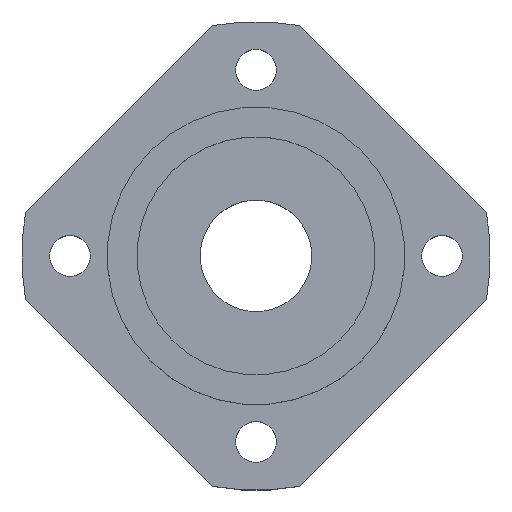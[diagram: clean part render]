
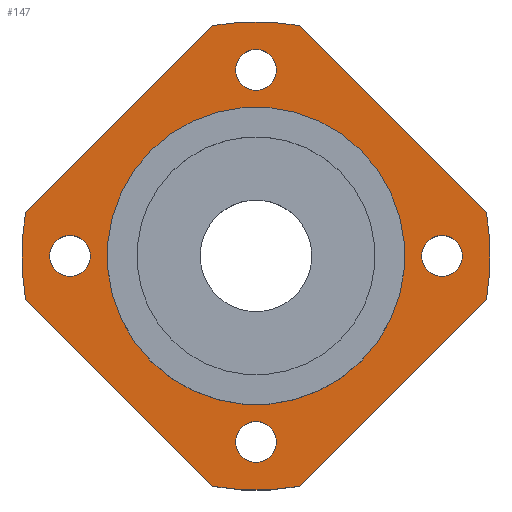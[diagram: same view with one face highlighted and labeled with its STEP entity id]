
A CAD part, top view. The second image highlights one B-rep face of the part: STEP entity #147.
In plain terms, the highlighted planar face has unit normal (0, 0, 1).
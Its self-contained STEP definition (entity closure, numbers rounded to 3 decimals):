
#83=LINE('',#720,#99);
#88=LINE('',#734,#104);
#92=LINE('',#746,#108);
#96=LINE('',#758,#112);
#99=VECTOR('',#577,1.);
#104=VECTOR('',#590,1.);
#108=VECTOR('',#602,1.);
#112=VECTOR('',#614,1.);
#123=PLANE('',#545);
#147=ADVANCED_FACE('',(#201,#202,#203,#204,#205,#206),#123,.T.);
#201=FACE_BOUND('',#259,.T.);
#202=FACE_BOUND('',#260,.T.);
#203=FACE_BOUND('',#261,.T.);
#204=FACE_BOUND('',#262,.T.);
#205=FACE_BOUND('',#263,.T.);
#206=FACE_BOUND('',#264,.T.);
#259=EDGE_LOOP('',(#348,#349,#350,#351,#352,#353,#354,#355));
#260=EDGE_LOOP('',(#356));
#261=EDGE_LOOP('',(#357));
#262=EDGE_LOOP('',(#358));
#263=EDGE_LOOP('',(#359));
#264=EDGE_LOOP('',(#360));
#348=ORIENTED_EDGE('',*,*,#421,.T.);
#349=ORIENTED_EDGE('',*,*,#425,.T.);
#350=ORIENTED_EDGE('',*,*,#428,.T.);
#351=ORIENTED_EDGE('',*,*,#430,.T.);
#352=ORIENTED_EDGE('',*,*,#434,.T.);
#353=ORIENTED_EDGE('',*,*,#437,.T.);
#354=ORIENTED_EDGE('',*,*,#440,.T.);
#355=ORIENTED_EDGE('',*,*,#441,.T.);
#356=ORIENTED_EDGE('',*,*,#415,.F.);
#357=ORIENTED_EDGE('',*,*,#452,.F.);
#358=ORIENTED_EDGE('',*,*,#456,.F.);
#359=ORIENTED_EDGE('',*,*,#457,.F.);
#360=ORIENTED_EDGE('',*,*,#458,.F.);
#375=VERTEX_POINT('',#705);
#381=VERTEX_POINT('',#719);
#382=VERTEX_POINT('',#721);
#384=VERTEX_POINT('',#727);
#386=VERTEX_POINT('',#733);
#388=VERTEX_POINT('',#738);
#390=VERTEX_POINT('',#745);
#392=VERTEX_POINT('',#751);
#394=VERTEX_POINT('',#757);
#404=VERTEX_POINT('',#788);
#408=VERTEX_POINT('',#800);
#409=VERTEX_POINT('',#802);
#410=VERTEX_POINT('',#804);
#415=EDGE_CURVE('GENERATED CIRCLE',#375,#375,#463,.T.);
#421=EDGE_CURVE('LINE',#382,#381,#83,.T.);
#425=EDGE_CURVE('GENERATED CIRCLE',#381,#384,#468,.T.);
#428=EDGE_CURVE('LINE',#384,#386,#88,.T.);
#430=EDGE_CURVE('GENERATED CIRCLE',#386,#388,#469,.T.);
#434=EDGE_CURVE('LINE',#388,#390,#92,.T.);
#437=EDGE_CURVE('GENERATED CIRCLE',#390,#392,#472,.T.);
#440=EDGE_CURVE('LINE',#392,#394,#96,.T.);
#441=EDGE_CURVE('GENERATED CIRCLE',#394,#382,#473,.T.);
#452=EDGE_CURVE('GENERATED CIRCLE',#404,#404,#484,.T.);
#456=EDGE_CURVE('GENERATED CIRCLE',#408,#408,#488,.T.);
#457=EDGE_CURVE('GENERATED CIRCLE',#409,#409,#489,.T.);
#458=EDGE_CURVE('GENERATED CIRCLE',#410,#410,#490,.T.);
#463=CIRCLE('',#496,2.75);
#468=CIRCLE('',#505,31.5);
#469=CIRCLE('',#508,31.5);
#472=CIRCLE('',#513,31.5);
#473=CIRCLE('',#516,31.5);
#484=CIRCLE('',#534,20.);
#488=CIRCLE('',#542,2.75);
#489=CIRCLE('',#543,2.75);
#490=CIRCLE('',#544,2.75);
#496=AXIS2_PLACEMENT_3D('',#704,#561,#562);
#505=AXIS2_PLACEMENT_3D('',#728,#584,#585);
#508=AXIS2_PLACEMENT_3D('',#739,#594,#595);
#513=AXIS2_PLACEMENT_3D('',#752,#608,#609);
#516=AXIS2_PLACEMENT_3D('',#760,#617,#618);
#534=AXIS2_PLACEMENT_3D('',#787,#653,#654);
#542=AXIS2_PLACEMENT_3D('',#799,#669,#670);
#543=AXIS2_PLACEMENT_3D('',#801,#671,#672);
#544=AXIS2_PLACEMENT_3D('',#803,#673,#674);
#545=AXIS2_PLACEMENT_3D('',#805,#675,#676);
#561=DIRECTION('',(0.,0.,1.));
#562=DIRECTION('',(-1.,0.,0.));
#577=DIRECTION('',(0.,1.,0.));
#584=DIRECTION('',(0.,0.,1.));
#585=DIRECTION('',(1.,0.,0.));
#590=DIRECTION('',(-1.,0.,0.));
#594=DIRECTION('',(0.,0.,1.));
#595=DIRECTION('',(1.,0.,0.));
#602=DIRECTION('',(0.,-1.,0.));
#608=DIRECTION('',(0.,0.,1.));
#609=DIRECTION('',(1.,0.,0.));
#614=DIRECTION('',(1.,0.,0.));
#617=DIRECTION('',(0.,0.,1.));
#618=DIRECTION('',(1.,0.,0.));
#653=DIRECTION('',(0.,0.,1.));
#654=DIRECTION('',(1.,0.,0.));
#669=DIRECTION('',(0.,0.,1.));
#670=DIRECTION('',(1.,0.,0.));
#671=DIRECTION('',(0.,0.,1.));
#672=DIRECTION('',(1.,0.,0.));
#673=DIRECTION('',(0.,0.,1.));
#674=DIRECTION('',(1.,0.,0.));
#675=DIRECTION('',(0.,0.,1.));
#676=DIRECTION('',(-1.,0.,0.));
#704=CARTESIAN_POINT('',(17.678,-17.678,9.));
#705=CARTESIAN_POINT('',(14.928,-17.678,9.));
#719=CARTESIAN_POINT('',(26.,17.783,9.));
#720=CARTESIAN_POINT('',(26.,0.,9.));
#721=CARTESIAN_POINT('',(26.,-17.783,9.));
#727=CARTESIAN_POINT('',(17.783,26.,9.));
#728=CARTESIAN_POINT('',(0.,0.,9.));
#733=CARTESIAN_POINT('',(-17.783,26.,9.));
#734=CARTESIAN_POINT('',(0.,26.,9.));
#738=CARTESIAN_POINT('',(-26.,17.783,9.));
#739=CARTESIAN_POINT('',(0.,0.,9.));
#745=CARTESIAN_POINT('',(-26.,-17.783,9.));
#746=CARTESIAN_POINT('',(-26.,0.,9.));
#751=CARTESIAN_POINT('',(-17.783,-26.,9.));
#752=CARTESIAN_POINT('',(0.,0.,9.));
#757=CARTESIAN_POINT('',(17.783,-26.,9.));
#758=CARTESIAN_POINT('',(0.,-26.,9.));
#760=CARTESIAN_POINT('',(0.,0.,9.));
#787=CARTESIAN_POINT('',(0.,0.,9.));
#788=CARTESIAN_POINT('',(20.,0.,9.));
#799=CARTESIAN_POINT('',(17.678,17.678,9.));
#800=CARTESIAN_POINT('',(20.428,17.678,9.));
#801=CARTESIAN_POINT('',(-17.678,17.678,9.));
#802=CARTESIAN_POINT('',(-14.928,17.678,9.));
#803=CARTESIAN_POINT('',(-17.678,-17.678,9.));
#804=CARTESIAN_POINT('',(-14.928,-17.678,9.));
#805=CARTESIAN_POINT('',(0.,31.5,9.));
